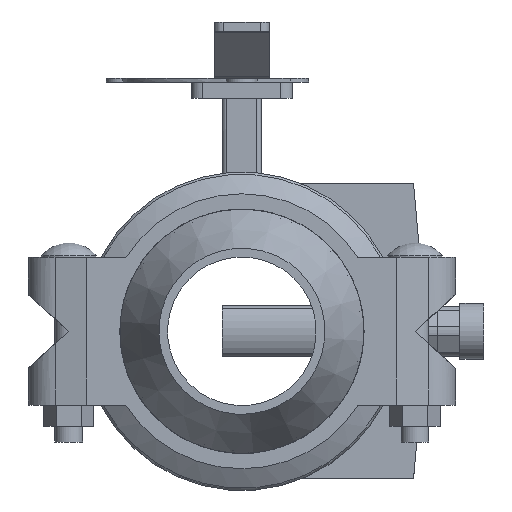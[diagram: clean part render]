
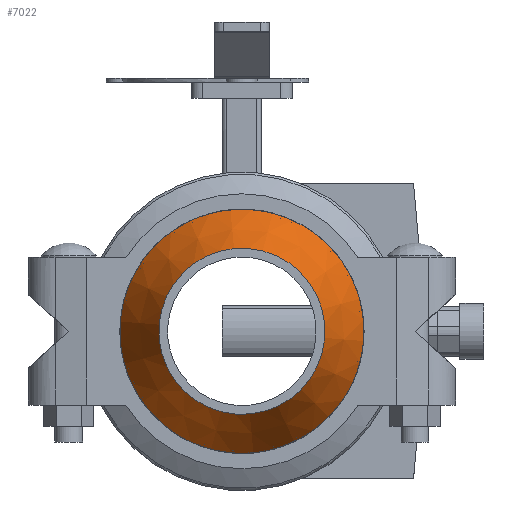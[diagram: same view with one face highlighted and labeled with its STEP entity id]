
A CAD part, front view. The second image highlights one B-rep face of the part: STEP entity #7022.
In plain terms, the highlighted conical face has half-angle 28.734 degrees and reference radius 70.644 mm.
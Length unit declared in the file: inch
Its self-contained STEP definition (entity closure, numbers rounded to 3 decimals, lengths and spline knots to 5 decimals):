
#151=CONICAL_SURFACE('',#7614,2.78125,0.501);
#166=LINE('',#10681,#694);
#694=VECTOR('',#8484,2.78125);
#1444=FACE_OUTER_BOUND('',#1837,.T.);
#1837=EDGE_LOOP('',(#4416,#4417,#4418,#4419,#4420,#4421));
#2310=CIRCLE('',#7612,3.3125);
#2311=CIRCLE('',#7613,3.3125);
#2312=CIRCLE('',#7615,2.25);
#2313=CIRCLE('',#7616,2.25);
#2718=VERTEX_POINT('',#10671);
#2719=VERTEX_POINT('',#10672);
#2720=VERTEX_POINT('',#10677);
#2721=VERTEX_POINT('',#10678);
#3396=EDGE_CURVE('',#2718,#2719,#2310,.T.);
#3397=EDGE_CURVE('',#2719,#2718,#2311,.T.);
#3399=EDGE_CURVE('',#2720,#2721,#2312,.T.);
#3400=EDGE_CURVE('',#2721,#2720,#2313,.T.);
#3401=EDGE_CURVE('',#2721,#2719,#166,.T.);
#4416=ORIENTED_EDGE('',*,*,#3399,.F.);
#4417=ORIENTED_EDGE('',*,*,#3400,.F.);
#4418=ORIENTED_EDGE('',*,*,#3401,.T.);
#4419=ORIENTED_EDGE('',*,*,#3397,.T.);
#4420=ORIENTED_EDGE('',*,*,#3396,.T.);
#4421=ORIENTED_EDGE('',*,*,#3401,.F.);
#7022=ADVANCED_FACE('',(#1444),#151,.T.);
#7612=AXIS2_PLACEMENT_3D('',#10673,#8473,#8474);
#7613=AXIS2_PLACEMENT_3D('',#10674,#8475,#8476);
#7614=AXIS2_PLACEMENT_3D('',#10676,#8478,#8479);
#7615=AXIS2_PLACEMENT_3D('',#10679,#8480,#8481);
#7616=AXIS2_PLACEMENT_3D('',#10680,#8482,#8483);
#8473=DIRECTION('center_axis',(1.,0.,0.));
#8474=DIRECTION('ref_axis',(0.,1.,0.));
#8475=DIRECTION('center_axis',(1.,0.,0.));
#8476=DIRECTION('ref_axis',(0.,1.,0.));
#8478=DIRECTION('center_axis',(-1.,0.,0.));
#8479=DIRECTION('ref_axis',(0.,1.,0.));
#8480=DIRECTION('center_axis',(1.,0.,0.));
#8481=DIRECTION('ref_axis',(0.,1.,0.));
#8482=DIRECTION('center_axis',(1.,0.,0.));
#8483=DIRECTION('ref_axis',(0.,1.,0.));
#8484=DIRECTION('',(-0.877,-0.481,0.));
#10671=CARTESIAN_POINT('',(1.031,3.3125,0.));
#10672=CARTESIAN_POINT('',(1.031,-3.3125,0.));
#10673=CARTESIAN_POINT('Origin',(1.031,0.,0.));
#10674=CARTESIAN_POINT('Origin',(1.031,0.,0.));
#10676=CARTESIAN_POINT('Origin',(2.,0.,0.));
#10677=CARTESIAN_POINT('',(2.969,2.25,0.));
#10678=CARTESIAN_POINT('',(2.969,-2.25,0.));
#10679=CARTESIAN_POINT('Origin',(2.969,0.,0.));
#10680=CARTESIAN_POINT('Origin',(2.969,0.,0.));
#10681=CARTESIAN_POINT('',(2.,-2.78125,0.));
